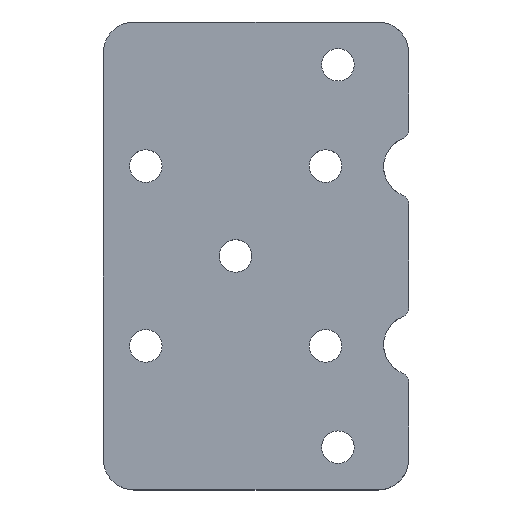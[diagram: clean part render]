
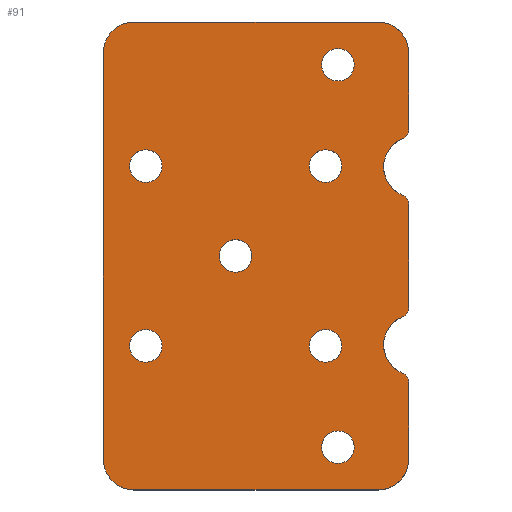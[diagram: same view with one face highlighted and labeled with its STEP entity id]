
A CAD part, top view. The second image highlights one B-rep face of the part: STEP entity #91.
In plain terms, the highlighted planar face has unit normal (0, 0, 1).
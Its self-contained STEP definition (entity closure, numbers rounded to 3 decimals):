
#91=ADVANCED_FACE('',(#191,#192,#193,#194,#195,#196,#197,#198),#124,.T.);
#124=PLANE('',#610);
#133=LINE('',#851,#162);
#134=LINE('',#860,#163);
#135=LINE('',#868,#164);
#136=LINE('',#872,#165);
#137=LINE('',#876,#166);
#138=LINE('',#880,#167);
#162=VECTOR('',#673,1.);
#163=VECTOR('',#680,1.);
#164=VECTOR('',#687,1.);
#165=VECTOR('',#690,1.);
#166=VECTOR('',#693,1.);
#167=VECTOR('',#696,1.);
#191=FACE_BOUND('',#235,.T.);
#192=FACE_BOUND('',#236,.T.);
#193=FACE_BOUND('',#237,.T.);
#194=FACE_BOUND('',#238,.T.);
#195=FACE_BOUND('',#239,.T.);
#196=FACE_BOUND('',#240,.T.);
#197=FACE_BOUND('',#241,.T.);
#198=FACE_BOUND('',#242,.T.);
#235=EDGE_LOOP('',(#296));
#236=EDGE_LOOP('',(#297));
#237=EDGE_LOOP('',(#298,#299,#300,#301,#302,#303,#304,#305,#306,#307,#308,
#309,#310,#311,#312,#313));
#238=EDGE_LOOP('',(#314));
#239=EDGE_LOOP('',(#315));
#240=EDGE_LOOP('',(#316));
#241=EDGE_LOOP('',(#317));
#242=EDGE_LOOP('',(#318));
#296=ORIENTED_EDGE('',*,*,#489,.F.);
#297=ORIENTED_EDGE('',*,*,#490,.F.);
#298=ORIENTED_EDGE('',*,*,#491,.F.);
#299=ORIENTED_EDGE('',*,*,#492,.T.);
#300=ORIENTED_EDGE('',*,*,#493,.F.);
#301=ORIENTED_EDGE('',*,*,#494,.T.);
#302=ORIENTED_EDGE('',*,*,#495,.F.);
#303=ORIENTED_EDGE('',*,*,#496,.T.);
#304=ORIENTED_EDGE('',*,*,#497,.F.);
#305=ORIENTED_EDGE('',*,*,#498,.T.);
#306=ORIENTED_EDGE('',*,*,#499,.F.);
#307=ORIENTED_EDGE('',*,*,#500,.T.);
#308=ORIENTED_EDGE('',*,*,#501,.F.);
#309=ORIENTED_EDGE('',*,*,#502,.T.);
#310=ORIENTED_EDGE('',*,*,#503,.F.);
#311=ORIENTED_EDGE('',*,*,#504,.T.);
#312=ORIENTED_EDGE('',*,*,#505,.F.);
#313=ORIENTED_EDGE('',*,*,#506,.T.);
#314=ORIENTED_EDGE('',*,*,#507,.F.);
#315=ORIENTED_EDGE('',*,*,#508,.F.);
#316=ORIENTED_EDGE('',*,*,#509,.F.);
#317=ORIENTED_EDGE('',*,*,#510,.F.);
#318=ORIENTED_EDGE('',*,*,#511,.T.);
#436=VERTEX_POINT('',#848);
#437=VERTEX_POINT('',#850);
#438=VERTEX_POINT('',#852);
#439=VERTEX_POINT('',#853);
#440=VERTEX_POINT('',#855);
#441=VERTEX_POINT('',#857);
#442=VERTEX_POINT('',#859);
#443=VERTEX_POINT('',#861);
#444=VERTEX_POINT('',#863);
#445=VERTEX_POINT('',#865);
#446=VERTEX_POINT('',#867);
#447=VERTEX_POINT('',#869);
#448=VERTEX_POINT('',#871);
#449=VERTEX_POINT('',#873);
#450=VERTEX_POINT('',#875);
#451=VERTEX_POINT('',#877);
#452=VERTEX_POINT('',#879);
#453=VERTEX_POINT('',#881);
#454=VERTEX_POINT('',#884);
#455=VERTEX_POINT('',#886);
#456=VERTEX_POINT('',#888);
#457=VERTEX_POINT('',#890);
#458=VERTEX_POINT('',#892);
#489=EDGE_CURVE('',#436,#436,#559,.T.);
#490=EDGE_CURVE('',#437,#437,#560,.T.);
#491=EDGE_CURVE('',#438,#439,#133,.T.);
#492=EDGE_CURVE('',#438,#440,#561,.T.);
#493=EDGE_CURVE('',#441,#440,#562,.T.);
#494=EDGE_CURVE('',#441,#442,#563,.T.);
#495=EDGE_CURVE('',#443,#442,#134,.T.);
#496=EDGE_CURVE('',#443,#444,#564,.T.);
#497=EDGE_CURVE('',#445,#444,#565,.T.);
#498=EDGE_CURVE('',#445,#446,#566,.T.);
#499=EDGE_CURVE('',#447,#446,#135,.T.);
#500=EDGE_CURVE('',#447,#448,#567,.T.);
#501=EDGE_CURVE('',#449,#448,#136,.T.);
#502=EDGE_CURVE('',#449,#450,#568,.T.);
#503=EDGE_CURVE('',#451,#450,#137,.T.);
#504=EDGE_CURVE('',#451,#452,#569,.T.);
#505=EDGE_CURVE('',#453,#452,#138,.T.);
#506=EDGE_CURVE('',#453,#439,#570,.T.);
#507=EDGE_CURVE('',#454,#454,#571,.T.);
#508=EDGE_CURVE('',#455,#455,#572,.T.);
#509=EDGE_CURVE('',#456,#456,#573,.T.);
#510=EDGE_CURVE('',#457,#457,#574,.T.);
#511=EDGE_CURVE('',#458,#458,#575,.T.);
#559=CIRCLE('',#593,1.6);
#560=CIRCLE('',#594,1.6);
#561=CIRCLE('',#595,1.);
#562=CIRCLE('',#596,3.);
#563=CIRCLE('',#597,1.);
#564=CIRCLE('',#598,1.);
#565=CIRCLE('',#599,3.);
#566=CIRCLE('',#600,1.);
#567=CIRCLE('',#601,3.);
#568=CIRCLE('',#602,3.);
#569=CIRCLE('',#603,3.);
#570=CIRCLE('',#604,3.);
#571=CIRCLE('',#605,1.6);
#572=CIRCLE('',#606,1.6);
#573=CIRCLE('',#607,1.6);
#574=CIRCLE('',#608,1.6);
#575=CIRCLE('',#609,1.6);
#593=AXIS2_PLACEMENT_3D('',#847,#669,#670);
#594=AXIS2_PLACEMENT_3D('',#849,#671,#672);
#595=AXIS2_PLACEMENT_3D('',#854,#674,#675);
#596=AXIS2_PLACEMENT_3D('',#856,#676,#677);
#597=AXIS2_PLACEMENT_3D('',#858,#678,#679);
#598=AXIS2_PLACEMENT_3D('',#862,#681,#682);
#599=AXIS2_PLACEMENT_3D('',#864,#683,#684);
#600=AXIS2_PLACEMENT_3D('',#866,#685,#686);
#601=AXIS2_PLACEMENT_3D('',#870,#688,#689);
#602=AXIS2_PLACEMENT_3D('',#874,#691,#692);
#603=AXIS2_PLACEMENT_3D('',#878,#694,#695);
#604=AXIS2_PLACEMENT_3D('',#882,#697,#698);
#605=AXIS2_PLACEMENT_3D('',#883,#699,#700);
#606=AXIS2_PLACEMENT_3D('',#885,#701,#702);
#607=AXIS2_PLACEMENT_3D('',#887,#703,#704);
#608=AXIS2_PLACEMENT_3D('',#889,#705,#706);
#609=AXIS2_PLACEMENT_3D('',#891,#707,#708);
#610=AXIS2_PLACEMENT_3D('',#893,#709,#710);
#669=DIRECTION('',(0.,0.,1.));
#670=DIRECTION('',(1.,0.,0.));
#671=DIRECTION('',(0.,0.,1.));
#672=DIRECTION('',(1.,0.,0.));
#673=DIRECTION('',(0.,-1.,0.));
#674=DIRECTION('',(0.,0.,1.));
#675=DIRECTION('',(1.,0.,0.));
#676=DIRECTION('',(0.,0.,1.));
#677=DIRECTION('',(1.,0.,0.));
#678=DIRECTION('',(0.,0.,1.));
#679=DIRECTION('',(1.,0.,0.));
#680=DIRECTION('',(0.,-1.,0.));
#681=DIRECTION('',(0.,0.,1.));
#682=DIRECTION('',(1.,0.,0.));
#683=DIRECTION('',(0.,0.,1.));
#684=DIRECTION('',(1.,0.,0.));
#685=DIRECTION('',(0.,0.,1.));
#686=DIRECTION('',(1.,0.,0.));
#687=DIRECTION('',(0.,-1.,0.));
#688=DIRECTION('',(0.,0.,1.));
#689=DIRECTION('',(1.,0.,0.));
#690=DIRECTION('',(1.,0.,0.));
#691=DIRECTION('',(0.,0.,1.));
#692=DIRECTION('',(1.,0.,0.));
#693=DIRECTION('',(0.,1.,0.));
#694=DIRECTION('',(0.,0.,1.));
#695=DIRECTION('',(1.,0.,0.));
#696=DIRECTION('',(-1.,0.,0.));
#697=DIRECTION('',(0.,0.,1.));
#698=DIRECTION('',(1.,0.,0.));
#699=DIRECTION('',(0.,0.,1.));
#700=DIRECTION('',(1.,0.,0.));
#701=DIRECTION('',(0.,0.,1.));
#702=DIRECTION('',(1.,0.,0.));
#703=DIRECTION('',(0.,0.,1.));
#704=DIRECTION('',(1.,0.,0.));
#705=DIRECTION('',(0.,0.,1.));
#706=DIRECTION('',(1.,0.,0.));
#707=DIRECTION('',(0.,0.,-1.));
#708=DIRECTION('',(1.,0.,0.));
#709=DIRECTION('',(0.,0.,1.));
#710=DIRECTION('',(1.,0.,0.));
#847=CARTESIAN_POINT('',(10.05,-18.8,5.));
#848=CARTESIAN_POINT('',(11.65,-18.8,5.));
#849=CARTESIAN_POINT('',(10.05,18.8,5.));
#850=CARTESIAN_POINT('',(11.65,18.8,5.));
#851=CARTESIAN_POINT('',(17.,-11.7,5.));
#852=CARTESIAN_POINT('',(17.,-12.438,5.));
#853=CARTESIAN_POINT('',(17.,-20.,5.));
#854=CARTESIAN_POINT('',(16.,-12.438,5.));
#855=CARTESIAN_POINT('',(16.387,-11.516,5.));
#856=CARTESIAN_POINT('',(17.548,-8.75,5.));
#857=CARTESIAN_POINT('',(16.387,-5.984,5.));
#858=CARTESIAN_POINT('',(16.,-5.062,5.));
#859=CARTESIAN_POINT('',(17.,-5.062,5.));
#860=CARTESIAN_POINT('',(17.,5.8,5.));
#861=CARTESIAN_POINT('',(17.,5.062,5.));
#862=CARTESIAN_POINT('',(16.,5.062,5.));
#863=CARTESIAN_POINT('',(16.387,5.984,5.));
#864=CARTESIAN_POINT('',(17.548,8.75,5.));
#865=CARTESIAN_POINT('',(16.387,11.516,5.));
#866=CARTESIAN_POINT('',(16.,12.438,5.));
#867=CARTESIAN_POINT('',(17.,12.438,5.));
#868=CARTESIAN_POINT('',(17.,23.,5.));
#869=CARTESIAN_POINT('',(17.,20.,5.));
#870=CARTESIAN_POINT('',(14.,20.,5.));
#871=CARTESIAN_POINT('',(14.,23.,5.));
#872=CARTESIAN_POINT('',(-13.,23.,5.));
#873=CARTESIAN_POINT('',(-10.,23.,5.));
#874=CARTESIAN_POINT('',(-10.,20.,5.));
#875=CARTESIAN_POINT('',(-13.,20.,5.));
#876=CARTESIAN_POINT('',(-13.,-23.,5.));
#877=CARTESIAN_POINT('',(-13.,-20.,5.));
#878=CARTESIAN_POINT('',(-10.,-20.,5.));
#879=CARTESIAN_POINT('',(-10.,-23.,5.));
#880=CARTESIAN_POINT('',(17.,-23.,5.));
#881=CARTESIAN_POINT('',(14.,-23.,5.));
#882=CARTESIAN_POINT('',(14.,-20.,5.));
#883=CARTESIAN_POINT('',(8.839,8.839,5.));
#884=CARTESIAN_POINT('',(10.439,8.839,5.));
#885=CARTESIAN_POINT('',(-8.839,-8.839,5.));
#886=CARTESIAN_POINT('',(-7.239,-8.839,5.));
#887=CARTESIAN_POINT('',(-8.839,8.839,5.));
#888=CARTESIAN_POINT('',(-7.239,8.839,5.));
#889=CARTESIAN_POINT('',(0.,0.,5.));
#890=CARTESIAN_POINT('',(1.6,0.,5.));
#891=CARTESIAN_POINT('',(8.839,-8.839,5.));
#892=CARTESIAN_POINT('',(10.439,-8.839,5.));
#893=CARTESIAN_POINT('',(17.548,8.75,5.));
